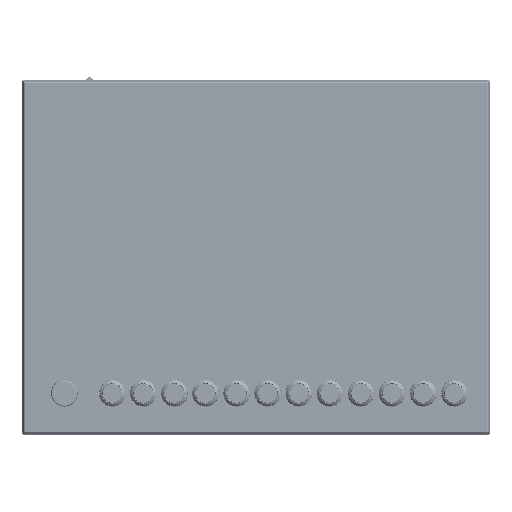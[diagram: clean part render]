
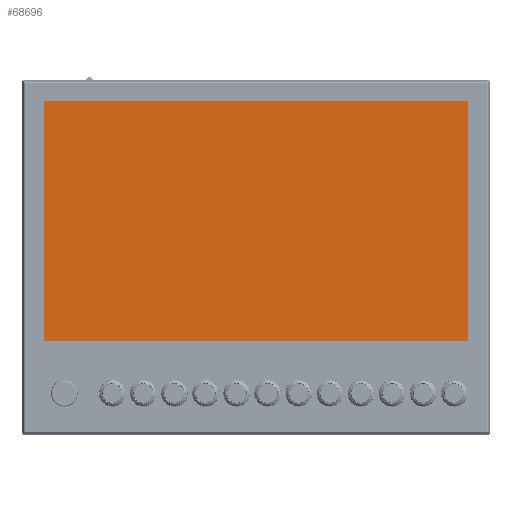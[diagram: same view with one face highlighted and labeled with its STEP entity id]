
A CAD part, top view. The second image highlights one B-rep face of the part: STEP entity #68696.
In plain terms, the highlighted planar face has unit normal (0, 0, 1).
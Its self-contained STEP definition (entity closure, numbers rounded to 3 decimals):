
#68484=CARTESIAN_POINT('',(166.645,-29.757,28.));
#68485=VERTEX_POINT('',#68484);
#68486=CARTESIAN_POINT('',(166.645,240.443,28.));
#68487=VERTEX_POINT('',#68486);
#68488=CARTESIAN_POINT('',(166.645,-29.757,28.));
#68489=DIRECTION('',(0.0,1.0,0.0));
#68490=VECTOR('',#68489,270.2);
#68491=LINE('',#68488,#68490);
#68492=EDGE_CURVE('',#68485,#68487,#68491,.T.);
#68494=CARTESIAN_POINT('',(-311.855,-29.757,28.));
#68495=VERTEX_POINT('',#68494);
#68496=CARTESIAN_POINT('',(-311.855,-29.757,28.));
#68497=DIRECTION('',(1.0,0.0,0.0));
#68498=VECTOR('',#68497,478.5);
#68499=LINE('',#68496,#68498);
#68500=EDGE_CURVE('',#68495,#68485,#68499,.T.);
#68502=CARTESIAN_POINT('',(-311.855,240.443,28.));
#68503=VERTEX_POINT('',#68502);
#68504=CARTESIAN_POINT('',(-311.855,240.443,28.));
#68505=DIRECTION('',(0.0,-1.0,0.0));
#68506=VECTOR('',#68505,270.2);
#68507=LINE('',#68504,#68506);
#68508=EDGE_CURVE('',#68503,#68495,#68507,.T.);
#68510=CARTESIAN_POINT('',(166.645,240.443,28.));
#68511=DIRECTION('',(-1.0,0.0,0.0));
#68512=VECTOR('',#68511,478.5);
#68513=LINE('',#68510,#68512);
#68514=EDGE_CURVE('',#68487,#68503,#68513,.T.);
#68685=CARTESIAN_POINT('',(-72.605,105.343,28.));
#68686=DIRECTION('',(0.0,0.0,1.0));
#68687=DIRECTION('',(1.0,0.0,0.0));
#68688=AXIS2_PLACEMENT_3D('',#68685,#68686,#68687);
#68689=PLANE('',#68688);
#68690=ORIENTED_EDGE('',*,*,#68492,.T.);
#68691=ORIENTED_EDGE('',*,*,#68514,.T.);
#68692=ORIENTED_EDGE('',*,*,#68508,.T.);
#68693=ORIENTED_EDGE('',*,*,#68500,.T.);
#68694=EDGE_LOOP('',(#68690,#68691,#68692,#68693));
#68695=FACE_OUTER_BOUND('',#68694,.T.);
#68696=ADVANCED_FACE('',(#68695),#68689,.T.);
